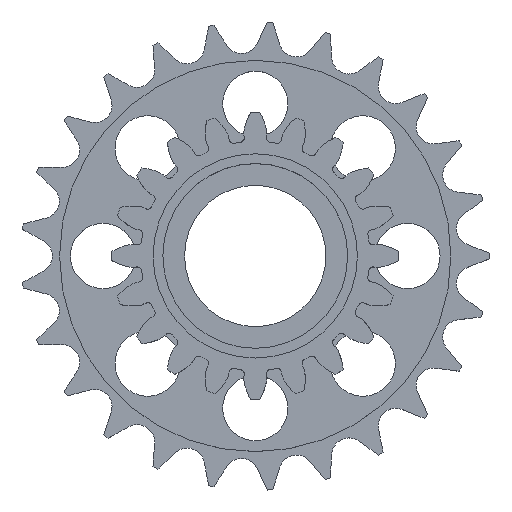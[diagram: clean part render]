
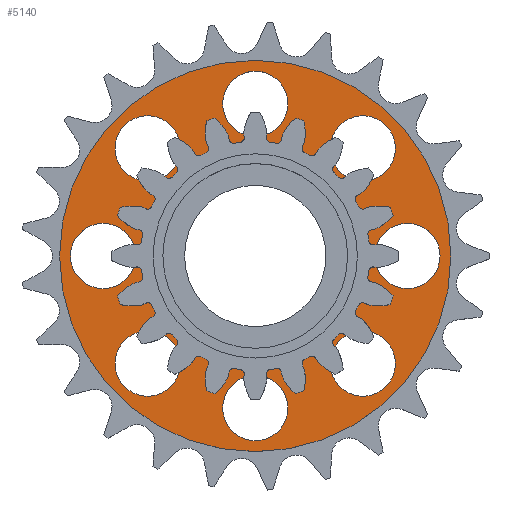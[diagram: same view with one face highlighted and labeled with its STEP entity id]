
A CAD part, top view. The second image highlights one B-rep face of the part: STEP entity #5140.
In plain terms, the highlighted planar face has unit normal (0, 0, 1).
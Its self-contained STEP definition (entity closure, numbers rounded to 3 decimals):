
#1122=FACE_BOUND('',#1428,.T.);
#1123=FACE_BOUND('',#1429,.T.);
#1124=FACE_BOUND('',#1430,.T.);
#1125=FACE_BOUND('',#1431,.T.);
#1126=FACE_BOUND('',#1432,.T.);
#1127=FACE_BOUND('',#1433,.T.);
#1128=FACE_BOUND('',#1434,.T.);
#1129=FACE_BOUND('',#1435,.T.);
#1130=FACE_BOUND('',#1436,.T.);
#1146=FACE_OUTER_BOUND('',#1427,.T.);
#1427=EDGE_LOOP('',(#3434));
#1428=EDGE_LOOP('',(#3435));
#1429=EDGE_LOOP('',(#3436));
#1430=EDGE_LOOP('',(#3437));
#1431=EDGE_LOOP('',(#3438));
#1432=EDGE_LOOP('',(#3439));
#1433=EDGE_LOOP('',(#3440));
#1434=EDGE_LOOP('',(#3441));
#1435=EDGE_LOOP('',(#3442));
#1436=EDGE_LOOP('',(#3443));
#1729=CIRCLE('',#5449,23.5);
#1730=CIRCLE('',#5451,45.);
#1731=CIRCLE('',#5452,7.5);
#1732=CIRCLE('',#5453,7.5);
#1733=CIRCLE('',#5454,7.5);
#1734=CIRCLE('',#5455,7.5);
#1735=CIRCLE('',#5456,7.5);
#1736=CIRCLE('',#5457,7.5);
#1737=CIRCLE('',#5458,7.5);
#1738=CIRCLE('',#5459,7.5);
#2065=VERTEX_POINT('',#7597);
#2066=VERTEX_POINT('',#7601);
#2067=VERTEX_POINT('',#7603);
#2068=VERTEX_POINT('',#7605);
#2069=VERTEX_POINT('',#7607);
#2070=VERTEX_POINT('',#7609);
#2071=VERTEX_POINT('',#7611);
#2072=VERTEX_POINT('',#7613);
#2073=VERTEX_POINT('',#7615);
#2074=VERTEX_POINT('',#7617);
#2612=EDGE_CURVE('',#2065,#2065,#1729,.T.);
#2613=EDGE_CURVE('',#2066,#2066,#1730,.T.);
#2614=EDGE_CURVE('',#2067,#2067,#1731,.T.);
#2615=EDGE_CURVE('',#2068,#2068,#1732,.T.);
#2616=EDGE_CURVE('',#2069,#2069,#1733,.T.);
#2617=EDGE_CURVE('',#2070,#2070,#1734,.T.);
#2618=EDGE_CURVE('',#2071,#2071,#1735,.T.);
#2619=EDGE_CURVE('',#2072,#2072,#1736,.T.);
#2620=EDGE_CURVE('',#2073,#2073,#1737,.T.);
#2621=EDGE_CURVE('',#2074,#2074,#1738,.T.);
#3434=ORIENTED_EDGE('',*,*,#2613,.F.);
#3435=ORIENTED_EDGE('',*,*,#2614,.F.);
#3436=ORIENTED_EDGE('',*,*,#2615,.F.);
#3437=ORIENTED_EDGE('',*,*,#2616,.F.);
#3438=ORIENTED_EDGE('',*,*,#2617,.F.);
#3439=ORIENTED_EDGE('',*,*,#2618,.F.);
#3440=ORIENTED_EDGE('',*,*,#2619,.F.);
#3441=ORIENTED_EDGE('',*,*,#2612,.F.);
#3442=ORIENTED_EDGE('',*,*,#2620,.F.);
#3443=ORIENTED_EDGE('',*,*,#2621,.F.);
#5067=PLANE('',#5450);
#5140=ADVANCED_FACE('',(#1146,#1122,#1123,#1124,#1125,#1126,#1127,#1128,
#1129,#1130),#5067,.T.);
#5449=AXIS2_PLACEMENT_3D('',#7599,#6037,#6038);
#5450=AXIS2_PLACEMENT_3D('',#7600,#6039,#6040);
#5451=AXIS2_PLACEMENT_3D('',#7602,#6041,#6042);
#5452=AXIS2_PLACEMENT_3D('',#7604,#6043,#6044);
#5453=AXIS2_PLACEMENT_3D('',#7606,#6045,#6046);
#5454=AXIS2_PLACEMENT_3D('',#7608,#6047,#6048);
#5455=AXIS2_PLACEMENT_3D('',#7610,#6049,#6050);
#5456=AXIS2_PLACEMENT_3D('',#7612,#6051,#6052);
#5457=AXIS2_PLACEMENT_3D('',#7614,#6053,#6054);
#5458=AXIS2_PLACEMENT_3D('',#7616,#6055,#6056);
#5459=AXIS2_PLACEMENT_3D('',#7618,#6057,#6058);
#6037=DIRECTION('center_axis',(0.,0.,1.));
#6038=DIRECTION('ref_axis',(-1.,0.,0.));
#6039=DIRECTION('center_axis',(0.,0.,1.));
#6040=DIRECTION('ref_axis',(-1.,0.,0.));
#6041=DIRECTION('center_axis',(0.,0.,-1.));
#6042=DIRECTION('ref_axis',(-1.,0.,0.));
#6043=DIRECTION('center_axis',(0.,0.,1.));
#6044=DIRECTION('ref_axis',(0.707,-0.707,0.));
#6045=DIRECTION('center_axis',(0.,0.,1.));
#6046=DIRECTION('ref_axis',(-0.707,-0.707,0.));
#6047=DIRECTION('center_axis',(0.,0.,1.));
#6048=DIRECTION('ref_axis',(-1.,0.,0.));
#6049=DIRECTION('center_axis',(0.,0.,1.));
#6050=DIRECTION('ref_axis',(1.,0.,0.));
#6051=DIRECTION('center_axis',(0.,0.,1.));
#6052=DIRECTION('ref_axis',(-0.707,0.707,0.));
#6053=DIRECTION('center_axis',(0.,0.,1.));
#6054=DIRECTION('ref_axis',(0.707,0.707,0.));
#6055=DIRECTION('center_axis',(0.,0.,1.));
#6056=DIRECTION('ref_axis',(0.,1.,0.));
#6057=DIRECTION('center_axis',(0.,0.,1.));
#6058=DIRECTION('ref_axis',(0.,-1.,0.));
#7597=CARTESIAN_POINT('',(23.5,0.,5.81));
#7599=CARTESIAN_POINT('Origin',(0.,0.,5.81));
#7600=CARTESIAN_POINT('Origin',(0.,0.,5.81));
#7601=CARTESIAN_POINT('',(45.,0.,5.81));
#7602=CARTESIAN_POINT('Origin',(0.,0.,5.81));
#7603=CARTESIAN_POINT('',(19.445,-19.445,5.81));
#7604=CARTESIAN_POINT('Origin',(24.749,-24.749,5.81));
#7605=CARTESIAN_POINT('',(-19.445,-19.445,5.81));
#7606=CARTESIAN_POINT('Origin',(-24.749,-24.749,5.81));
#7607=CARTESIAN_POINT('',(-27.5,0.,5.81));
#7608=CARTESIAN_POINT('Origin',(-35.,0.,5.81));
#7609=CARTESIAN_POINT('',(27.5,0.,5.81));
#7610=CARTESIAN_POINT('Origin',(35.,0.,5.81));
#7611=CARTESIAN_POINT('',(-19.445,19.445,5.81));
#7612=CARTESIAN_POINT('Origin',(-24.749,24.749,5.81));
#7613=CARTESIAN_POINT('',(19.445,19.445,5.81));
#7614=CARTESIAN_POINT('Origin',(24.749,24.749,5.81));
#7615=CARTESIAN_POINT('',(0.,27.5,5.81));
#7616=CARTESIAN_POINT('Origin',(0.,35.,5.81));
#7617=CARTESIAN_POINT('',(0.,-27.5,5.81));
#7618=CARTESIAN_POINT('Origin',(0.,-35.,5.81));
